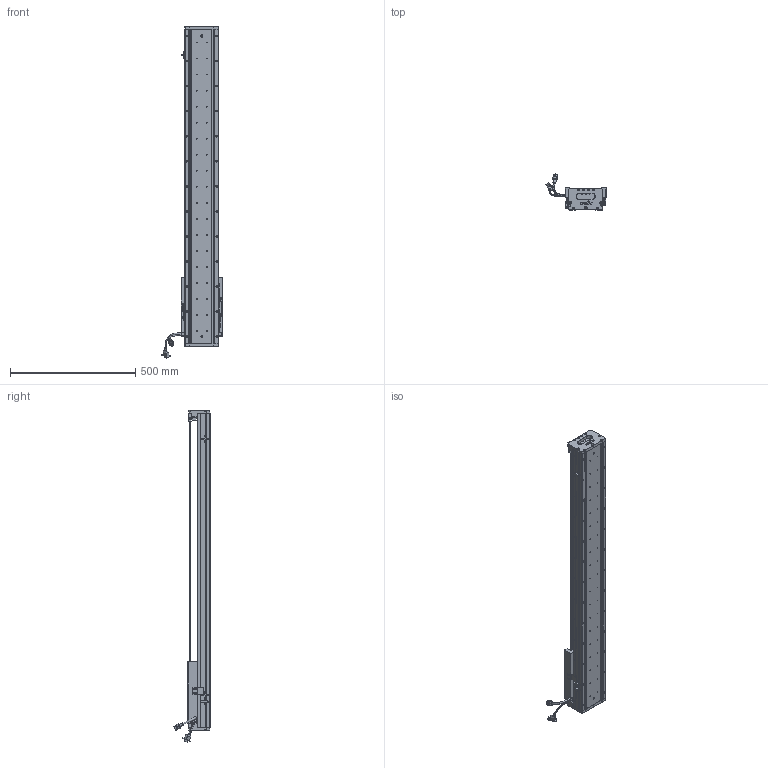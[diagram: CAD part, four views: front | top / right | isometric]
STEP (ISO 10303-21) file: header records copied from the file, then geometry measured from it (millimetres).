
FILE_DESCRIPTION (( 'STEP AP203' ), '1' );
FILE_NAME ('Z3-RY140D-1-L500-B-K.SLDASM_0950.step', '2021-05-17T08:01:01', ( '盈信电脑' ), ( '东莞市道滘镇水果街19号' ), 'SwSTEP 2.0', 'SolidWorks 2016', '' );
FILE_SCHEMA (( 'CONFIG_CONTROL_DESIGN' ));
Length unit declared in the file: millimetre
Products named in the file (36): HOLDER0; SCALE-Part-1; SCREW-M1.6-2; SEAL; SHIELDPLATE; 覜茼ん672; Z3-RY140圉猾敕臏賑輸(21遴); Z-RY140感应器672光电感应片; Z3-RY140-L500直线电机模组底座_0950; SCALE-Part-2; HARNESS-Part-2; Z-140詩湍傷裔啣; SCREW-M1.6-1; LABEL; Z3-RY140-L500詩湍100mm遵_0950; HARNESS; 140蚥薯蝶輸; COVER-Part-1; HARNESS-Part-1; SCREW-M1.7; 080黍杅芛假蚾釱21遴; LABEL-Part-1; PSLH080_PSLF2; 140-Z-臏賑輸盄裔(21遴); SEAL-Part-1; SCREW-M1.6; SCALE; 榋妏寠巭燃_暯_M2_2; SCREW-M1.6-3; Z3-RY140D-1-L500-B-K.SLDASM_0950; Z-RY140詩湍奻揤裔; PBU_SHEET; COVER; SCREW-M1.7-1; Z-RY140詩湍狟揤裔; 140雄赽晤鎢ん堤盄
Assembly tree (41 placements, depth 4):
  Z3-RY140D-1-L500-B-K.SLDASM_0950
    Z3-RY140-L500直线电机模组底座_0950
    Z-RY140感应器672光电感应片
    Z3-RY140圉猾敕臏賑輸(21遴)
    覜茼ん672  x3
    Z3-RY140-L500詩湍100mm遵_0950
    PSLH080_PSLF2
      SCALE
        SCALE-Part-1
        SCALE-Part-2
      HARNESS
        HARNESS-Part-1
        HARNESS-Part-2
      LABEL
        LABEL-Part-1
      COVER
        COVER-Part-1
      SEAL
        SEAL-Part-1
      榋妏寠巭燃_暯_M2_2
      SHIELDPLATE
      SCREW-M1.7
      SCREW-M1.7-1
      PBU_SHEET
      SCREW-M1.6
      SCREW-M1.6-1
      SCREW-M1.6-2
      SCREW-M1.6-3
      HOLDER0
    080黍杅芛假蚾釱21遴
    140-Z-臏賑輸盄裔(21遴)
    Z-140詩湍傷裔啣  x2
    Z-RY140詩湍狟揤裔  x2
    Z-RY140詩湍奻揤裔  x2
    140蚥薯蝶輸  x2
    140雄赽晤鎢ん堤盄
Bounding box: 239.84 x 143.88 x 1325.88 mm (x, y, z)
Volume: 4751967.6 mm3; surface area: 1229111.7 mm2
Topology: 36 solids, 36 shells, 3172 faces, 8428 edges, 5337 vertices
Faces by surface type: cylinder 1550, plane 1186, cone 314, torus 69, bspline 53
Entity records: 94876 total; most frequent: CARTESIAN_POINT 24745, ORIENTED_EDGE 13952, DIRECTION 13560, EDGE_CURVE 6976, AXIS2_PLACEMENT_3D 5000, VERTEX_POINT 4505, LINE 3560, VECTOR 3560
